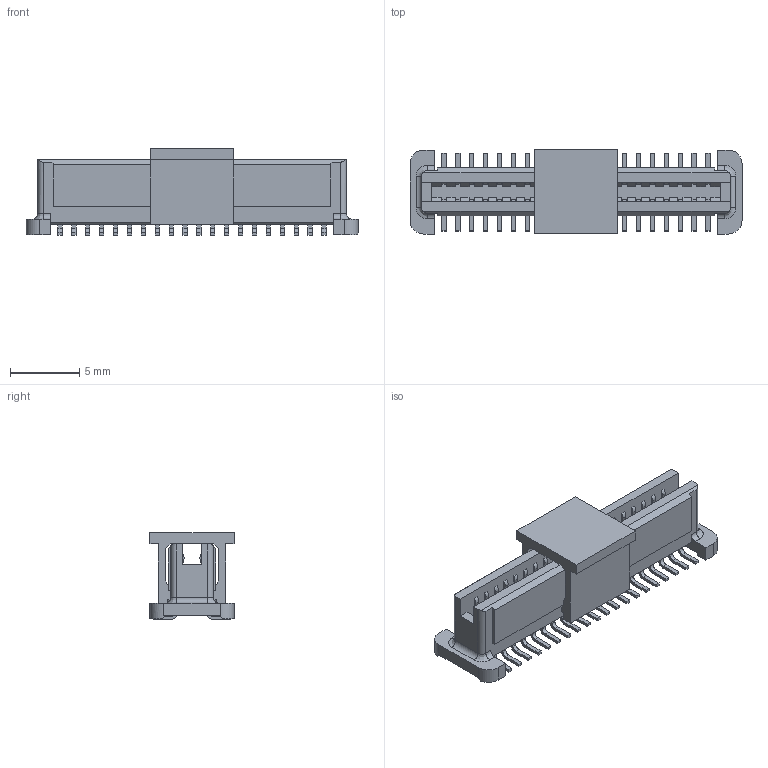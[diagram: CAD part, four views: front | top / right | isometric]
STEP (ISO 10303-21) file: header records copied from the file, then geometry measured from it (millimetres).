
FILE_DESCRIPTION (( 'STEP AP214' ), '1' );
FILE_NAME ('2348-40G10DN1T-P.STEP', '2024-02-23T09:57:00', ( '' ), ( '' ), 'SwSTEP 2.0', 'SolidWorks 2011', '' );
FILE_SCHEMA (( 'AUTOMOTIVE_DESIGN' ));
Length unit declared in the file: millimetre
Products named in the file (1): 2348-40G10DN1T-P
Bounding box: 23.9 x 6.05 x 6.22 mm (x, y, z)
Volume: 327.3 mm3; surface area: 852.3 mm2
Topology: 1 solids, 1 shells, 820 faces, 2208 edges, 1464 vertices
Faces by surface type: plane 602, cylinder 214, bspline 4
Entity records: 34654 total; most frequent: CARTESIAN_POINT 4602, ORIENTED_EDGE 4416, DIRECTION 4260, EDGE_CURVE 2208, VECTOR 1766, LINE 1766, VERTEX_POINT 1464, AXIS2_PLACEMENT_3D 1247
